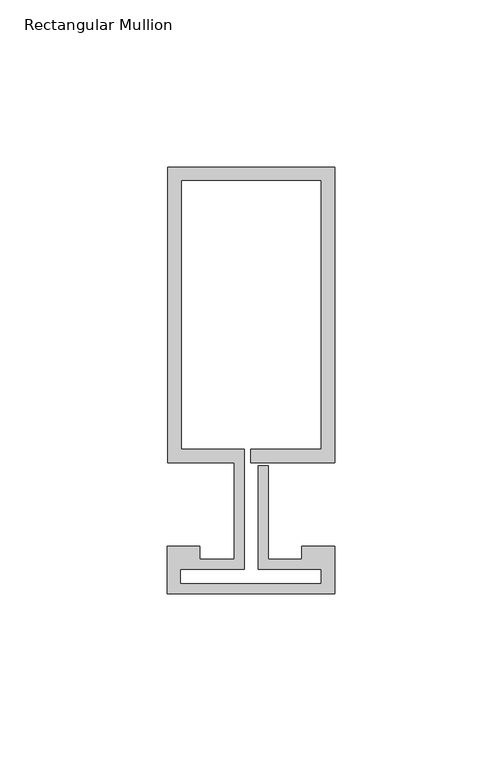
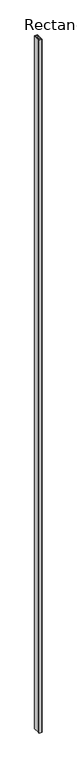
"""IFC4 building model written with IfcOpenShell, lengths in millimetres: member geometry, Rectangular Mullion : Reynaers_CW-50_Mullion-Transom_Horizontal_88.4mm_Facecap-02A."""

from ifc_helpers import new_model, si_unit, frame, origin, place, context, project, spatial, polyline, outline, extrude, source, transform, mapped, element, save


def rectangular_mullion_4a4e9010(model_context):
    return source(origin(), model_context, "Body", "SweptSolid", [
        extrude(outline(polyline([(-24.8004059, 100.9), (25.1995941, 100.9), (25.1995941, 12.5), (0.0, 12.5), (0.0, 16.5), (21.1995941, 16.5), (21.1995941, 96.9), (-20.8004059, 96.9), (-20.8004059, 16.5), (-1.9004059, 16.5), (-1.9004059, -19.5), (-20.994845, -19.5), (-20.994845, -23.7191338), (21.1995941, -23.7191338), (21.1995941, -19.5), (2.2995941, -19.5), (2.2995941, 11.5), (5.2995941, 11.5), (5.2995941, -16.5), (15.2996495, -16.5), (15.2996495, -12.5), (25.1995941, -12.5), (25.1995941, -26.8), (-24.994845, -26.8), (-24.994845, -12.5), (-15.2996495, -12.5), (-15.2996495, -16.5), (-4.9004059, -16.5), (-4.9004059, 12.5), (-24.8004059, 12.5), (-24.8004059, 100.9)])), frame((0.0, 0.0, -12000.0), z_axis=(0.0, 0.0, 1.0), x_axis=(1.0, 0.0, 0.0)), (0.0, 0.0, 1.0), 12000.0),
    ])


if __name__ == "__main__":
    model = new_model("IFC4")
    model_context = context("Model", 3, world=origin())
    ifc_project = project(units=[si_unit("LENGTHUNIT", "METRE", prefix="MILLI")], contexts=[model_context])
    site = spatial("IfcSite", under=ifc_project)
    building = spatial("IfcBuilding", under=site)
    placement = place(None, origin())
    rectangular_mullion_shape = rectangular_mullion_4a4e9010(model_context)
    element("IfcMember", 1, ObjectType="Rectangular Mullion : Reynaers_CW-50_Mullion-Transom_Horizontal_88.4mm_Facecap-02A", at=placement, inside=building, context=model_context, shape_type="MappedRepresentation", body=[
        mapped(rectangular_mullion_shape, transform((0.0, 0.0, 0.0), x_axis=(1.0, 0.0, 0.0), y_axis=(0.0, 1.0, 0.0), z_axis=(0.0, 0.0, 1.0))),
    ])
    save(model, "model.ifc")
